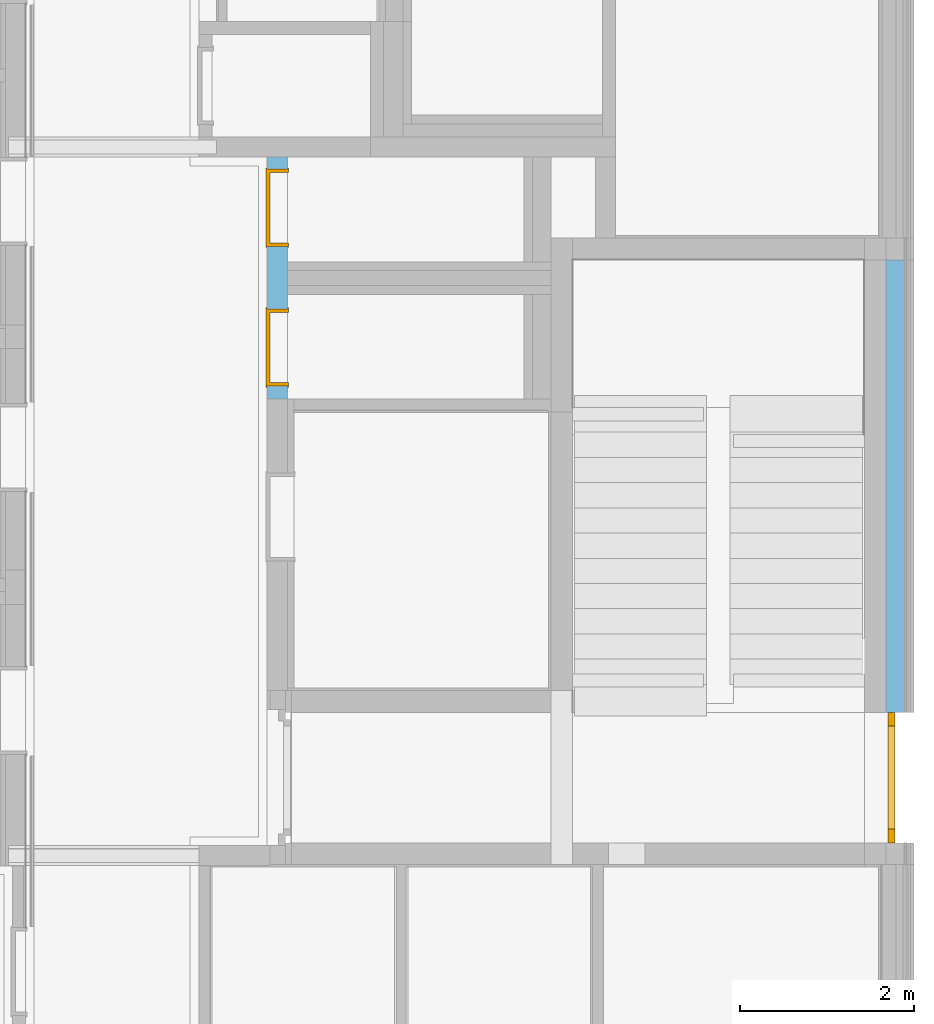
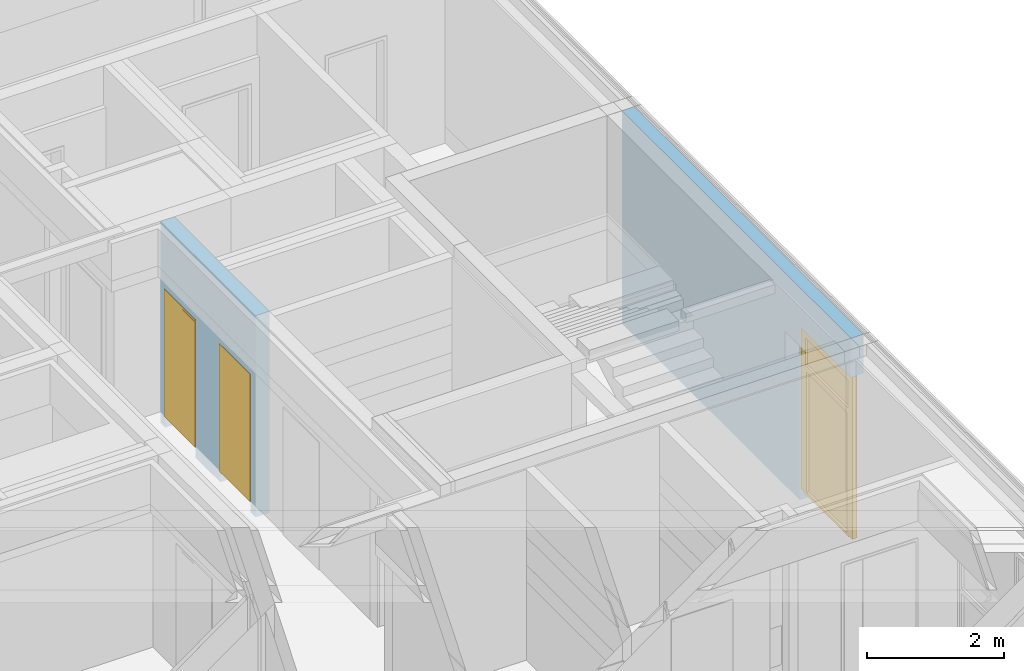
# One storey, part 142 of 207: 3 doors, 3 openings, plus 2 elements that do not belong to this part.
"""IFC4 building model written with IfcOpenShell, lengths in metres."""

import ifcopenshell
import ifcopenshell.guid

model = None  # the IFC model being written
_history = None  # IfcOwnerHistory: only IFC2X3 demands one
_inside = {}  # id of a spatial element -> (the spatial element, [elements in it])
_under = {}  # id of a project, library or spatial element -> (it, [spatial elements below it])
_declared = {}  # id of a project -> (the project, [libraries it declares])
_typed = {}  # id of a type object -> (the type object, [elements of that type])
_made_of = {}  # id of a material, layer set ... -> (it, [elements and type objects made of it])


def new_model(schema):
    """Start an empty IFC model of exactly this schema.

    Asked for "IFC4X3", IfcOpenShell would pick the latest addendum, in which some entities
    have other attributes; the version numbers below select the first issue.
    IFC2X3 requires an IfcOwnerHistory on every rooted entity: one is made here for all.
    """
    global model, _history
    if schema == "IFC4X3":
        model = ifcopenshell.file(schema_version=(4, 3, 0, 0))
    else:
        model = ifcopenshell.file(schema=schema)
    _inside.clear()
    _under.clear()
    _declared.clear()
    _typed.clear()
    _made_of.clear()
    _history = None
    if model.schema == "IFC2X3":
        org = make("IfcOrganization", Name="unknown")
        user = make(
            "IfcPersonAndOrganization",
            ThePerson=make("IfcPerson", FamilyName="unknown"),
            TheOrganization=org,
        )
        app = make(
            "IfcApplication",
            ApplicationDeveloper=org,
            Version="unknown",
            ApplicationFullName="unknown",
            ApplicationIdentifier="unknown",
        )
        _history = make(
            "IfcOwnerHistory",
            OwningUser=user,
            OwningApplication=app,
            ChangeAction="ADDED",
            CreationDate=0,
        )
    return model


def make(cls, **values):
    """One entity of the class cls with the attributes given. An attribute that is None is left unset."""
    return model.create_entity(
        cls, **{name: value for name, value in values.items() if value is not None}
    )


def entity(cls, *values):
    """Any entity or typed value of the class cls, its attributes in the order of the schema. None: left unset."""
    e = model.create_entity(cls)
    for i, value in enumerate(values):
        if value is not None:
            e[i] = value
    return e


def rooted(cls, **values):
    """An entity with a GlobalId (a new one), such as an element, a storey or a relation."""
    return make(cls, GlobalId=ifcopenshell.guid.new(), OwnerHistory=_history, **values)


def si_unit(unit_type, name, prefix=None):
    """IfcSIUnit, for example si_unit("LENGTHUNIT", "METRE", prefix="MILLI")."""
    return make("IfcSIUnit", UnitType=unit_type, Prefix=prefix, Name=name)


def converted_unit(unit_type, name, factor, base, dimensions=None, offset=None):
    """IfcConversionBasedUnit, such as the inch: factor (a typed value) times the base unit."""
    return make(
        "IfcConversionBasedUnit"
        if offset is None
        else "IfcConversionBasedUnitWithOffset",
        ConversionOffset=offset,
        Dimensions=None
        if dimensions is None
        else entity("IfcDimensionalExponents", *dimensions),
        UnitType=unit_type,
        Name=name,
        ConversionFactor=make(
            "IfcMeasureWithUnit", ValueComponent=factor, UnitComponent=base
        ),
    )


def derived_unit(unit_type, elements):
    """IfcDerivedUnit: a product of units, each with its exponent."""
    return make(
        "IfcDerivedUnit",
        Elements=[
            make("IfcDerivedUnitElement", Unit=unit, Exponent=power)
            for unit, power in elements
        ],
        UnitType=unit_type,
    )


def assignment(units):
    """IfcUnitAssignment: the units of a project."""
    return None if units is None else make("IfcUnitAssignment", Units=units)


def point(xyz):
    """IfcCartesianPoint."""
    return None if xyz is None else make("IfcCartesianPoint", Coordinates=xyz)


def direction(xyz):
    """IfcDirection."""
    return None if xyz is None else make("IfcDirection", DirectionRatios=xyz)


def frame(location, z_axis=None, x_axis=None):
    """IfcAxis2Placement3D, a coordinate frame: its origin and axes. An axis left out is left unset."""
    return make(
        "IfcAxis2Placement3D",
        Location=point(location),
        Axis=direction(z_axis),
        RefDirection=direction(x_axis),
    )


def frame_2d(location, x_axis=None):
    """IfcAxis2Placement2D, a coordinate frame in the plane: its origin and x axis."""
    return make(
        "IfcAxis2Placement2D", Location=point(location), RefDirection=direction(x_axis)
    )


def origin():
    """The frame at (0, 0, 0) with its axes left unset."""
    return frame((0.0, 0.0, 0.0))


def origin_with_axes():
    """The frame at (0, 0, 0) with the z axis (0, 0, 1) and the x axis (1, 0, 0) written out."""
    return frame((0.0, 0.0, 0.0), z_axis=(0.0, 0.0, 1.0), x_axis=(1.0, 0.0, 0.0))


def place(relative_to, where):
    """IfcLocalPlacement: puts the frame where relative to a parent placement (None: the world)."""
    return make(
        "IfcLocalPlacement", PlacementRelTo=relative_to, RelativePlacement=where
    )


def context(
    kind, dimensions, precision=None, world=None, true_north=None, identifier=None
):
    """IfcGeometricRepresentationContext, for example the 3D "Model" context."""
    return make(
        "IfcGeometricRepresentationContext",
        ContextIdentifier=identifier,
        ContextType=kind,
        CoordinateSpaceDimension=dimensions,
        Precision=precision,
        WorldCoordinateSystem=world,
        TrueNorth=true_north,
    )


def subcontext(parent, identifier, kind, view, scale=None):
    """IfcGeometricRepresentationSubContext, for example "Body" below "Model"."""
    return make(
        "IfcGeometricRepresentationSubContext",
        ContextIdentifier=identifier,
        ContextType=kind,
        ParentContext=parent,
        TargetScale=scale,
        TargetView=view,
    )


def project(units=None, contexts=None):
    """IfcProject with its units and contexts."""
    return rooted(
        "IfcProject",
        Name="project",
        RepresentationContexts=contexts,
        UnitsInContext=assignment(units),
    )


def spatial(cls, under=None, at=None, **own):
    """A site, building, storey or space (cls), placed at a placement, below another one or the project."""
    s = rooted(cls, ObjectPlacement=at, **own)
    if under is not None:
        _under.setdefault(under.id(), (under, []))[1].append(s)
    return s


def polyline(points):
    """IfcPolyline through the points."""
    return make("IfcPolyline", Points=[point(p) for p in points])


def profile(cls, at=None, kind="AREA", **sizes):
    """A parametric profile (cls). Its sizes go by their IFC names, for example OverallWidth=200.0."""
    return make(cls, ProfileType=kind, Position=at, **sizes)


def rectangle(**sizes):
    """IfcRectangleProfileDef."""
    return profile("IfcRectangleProfileDef", **sizes)


def outline(outer, holes=None, kind="AREA"):
    """IfcArbitraryClosedProfileDef: a profile drawn as a closed curve; with holes, ...WithVoids."""
    if holes is None:
        return make("IfcArbitraryClosedProfileDef", ProfileType=kind, OuterCurve=outer)
    return make(
        "IfcArbitraryProfileDefWithVoids",
        ProfileType=kind,
        OuterCurve=outer,
        InnerCurves=holes,
    )


def extrude(swept, where, along, depth):
    """IfcExtrudedAreaSolid: the profile swept, set in the frame where, extruded along a direction by depth."""
    return make(
        "IfcExtrudedAreaSolid",
        SweptArea=swept,
        Position=where,
        ExtrudedDirection=direction(along),
        Depth=depth,
    )


def faces_of(points, faces, orient=None, outer=None):
    """IfcFace entities. A face is a list of loops; a loop is a list of indices into points, from 0.

    orient and outer hold one flag for each loop. By default every Orientation is true, the
    first loop of a face is its IfcFaceOuterBound and the others are IfcFaceBound.
    """
    made = []
    for i, loops in enumerate(faces):
        bounds = []
        for j, loop in enumerate(loops):
            is_outer = j == 0 if outer is None else outer[i][j]
            bounds.append(
                make(
                    "IfcFaceOuterBound" if is_outer else "IfcFaceBound",
                    Bound=make("IfcPolyLoop", Polygon=[points[k] for k in loop]),
                    Orientation=True if orient is None else orient[i][j],
                )
            )
        made.append(make("IfcFace", Bounds=bounds))
    return made


def closed_shell(faces, orient=None, outer=None):
    """The faces of one IfcClosedShell. faceted_brep and surface_model build it on their shared points."""
    return ("IfcClosedShell", faces, orient, outer)


def open_shell(faces, orient=None, outer=None):
    """The faces of one IfcOpenShell. surface_model builds it on its shared points."""
    return ("IfcOpenShell", faces, orient, outer)


def faceted_brep(points, faces, orient=None, outer=None, voids=None):
    """IfcFacetedBrep: a solid bounded by flat faces; with voids (closed shells), ...WithVoids."""
    shared = [point(p) for p in points]
    hull = make("IfcClosedShell", CfsFaces=faces_of(shared, faces, orient, outer))
    if voids is None:
        return make("IfcFacetedBrep", Outer=hull)
    return make(
        "IfcFacetedBrepWithVoids",
        Outer=hull,
        Voids=[
            make(cls, CfsFaces=faces_of(shared, fs, o, b)) for cls, fs, o, b in voids
        ],
    )


def surface_model(cls, points, shells):
    """IfcFaceBasedSurfaceModel or IfcShellBasedSurfaceModel (cls): surfaces that need not close."""
    shared = [point(p) for p in points]
    made = [make(c, CfsFaces=faces_of(shared, fs, o, b)) for c, fs, o, b in shells]
    if cls == "IfcFaceBasedSurfaceModel":
        return make(cls, FbsmFaces=made)
    return make(cls, SbsmBoundary=made)


def shape(context_of_items, identifier, shape_type, items):
    """IfcShapeRepresentation: the items that make up one representation, for example the "Body"."""
    return make(
        "IfcShapeRepresentation",
        ContextOfItems=context_of_items,
        RepresentationIdentifier=identifier,
        RepresentationType=shape_type,
        Items=items,
    )


def source(mapping_origin, context_of_items, identifier, shape_type, items):
    """IfcRepresentationMap: a shape defined once, which mapped items show again and again."""
    return make(
        "IfcRepresentationMap",
        MappingOrigin=mapping_origin,
        MappedRepresentation=shape(context_of_items, identifier, shape_type, items),
    )


def transform(
    local_origin,
    x_axis=None,
    y_axis=None,
    z_axis=None,
    scale=None,
    scale2=None,
    scale3=None,
    uniform=True,
):
    """IfcCartesianTransformationOperator3D, or its non-uniform kind. x_axis, y_axis, z_axis: its Axis1, 2, 3."""
    if uniform:
        return make(
            "IfcCartesianTransformationOperator3D",
            Axis1=direction(x_axis),
            Axis2=direction(y_axis),
            LocalOrigin=point(local_origin),
            Scale=scale,
            Axis3=direction(z_axis),
        )
    return make(
        "IfcCartesianTransformationOperator3DnonUniform",
        Axis1=direction(x_axis),
        Axis2=direction(y_axis),
        LocalOrigin=point(local_origin),
        Scale=scale,
        Axis3=direction(z_axis),
        Scale2=scale2,
        Scale3=scale3,
    )


def mapped(mapping_source, mapping_target):
    """IfcMappedItem: shows the shape of a source again, moved by a transform."""
    return make(
        "IfcMappedItem", MappingSource=mapping_source, MappingTarget=mapping_target
    )


def material(Name=None, Category=None):
    """IfcMaterial."""
    return make("IfcMaterial", Name=Name, Category=Category)


def made_of(thing, what):
    """Note that an element or type object is made of a material, layer set ...; save() writes the relation."""
    if what is not None:
        _made_of.setdefault(what.id(), (what, []))[1].append(thing)
    return thing


def type_object(cls, material=None, **own):
    """A type object (cls), such as IfcWallType, which elements share."""
    return made_of(rooted(cls, **own), material)


def element(
    cls,
    number,
    at=None,
    inside=None,
    cuts=None,
    type_object=None,
    material=None,
    context=None,
    identifier="Body",
    shape_type=None,
    held_by="IfcProductDefinitionShape",
    body=None,
    shapes=None,
    **own,
):
    """One element of the class cls, such as IfcWall. Its Tag is "e" and its number.

    at: its placement. inside: the storey or other place that contains it. cuts: it is an
    opening in that element (IfcRelVoidsElement). A single representation is given by context,
    identifier, shape_type and body (its items); several are given by shapes. held_by: the class
    of the entity that holds the representations. save() writes the other relations.
    """
    e = rooted(cls, Tag="e%d" % number, ObjectPlacement=at, **own)
    if body is not None:
        shapes = [shape(context, identifier, shape_type, body)]
    if shapes is not None:
        e.Representation = make(held_by, Representations=shapes)
    if inside is not None:
        _inside.setdefault(inside.id(), (inside, []))[1].append(e)
    if cuts is not None:
        rooted(
            "IfcRelVoidsElement", RelatingBuildingElement=cuts, RelatedOpeningElement=e
        )
    if type_object is not None:
        _typed.setdefault(type_object.id(), (type_object, []))[1].append(e)
    return made_of(e, material)


def fill(opening, filler):
    """IfcRelFillsElement: the door or window that sits in an opening."""
    return rooted(
        "IfcRelFillsElement",
        RelatingOpeningElement=opening,
        RelatedBuildingElement=filler,
    )


def aggregate(whole, parts):
    """IfcRelAggregates: a whole, such as a stair, and the parts it consists of."""
    return rooted("IfcRelAggregates", RelatingObject=whole, RelatedObjects=parts)


def save(model, path):
    """Write the relations noted so far, then the file.

    IfcRelAggregates (storeys below a building ...), IfcRelContainedInSpatialStructure (elements
    in a storey), IfcRelDefinesByType, IfcRelAssociatesMaterial and IfcRelDeclares: one each for
    every whole, place, type object, material and project.
    """
    for whole, parts in _under.values():
        aggregate(whole, parts)
    for where, things in _inside.values():
        rooted(
            "IfcRelContainedInSpatialStructure",
            RelatedElements=things,
            RelatingStructure=where,
        )
    for kind, things in _typed.values():
        rooted("IfcRelDefinesByType", RelatedObjects=things, RelatingType=kind)
    for what, things in _made_of.values():
        rooted("IfcRelAssociatesMaterial", RelatedObjects=things, RelatingMaterial=what)
    for by, libraries in _declared.values():
        rooted("IfcRelDeclares", RelatingContext=by, RelatedDefinitions=libraries)
    model.write(path)


model = new_model("IFC4")

# Units and contexts
model_context = context("Model", 3, precision=1e-05, world=origin())
body_context = subcontext(model_context, "Body", "Model", "MODEL_VIEW")
ifc_project = project(units=[si_unit("LENGTHUNIT", "METRE"), si_unit("AREAUNIT", "SQUARE_METRE"), si_unit("VOLUMEUNIT", "CUBIC_METRE"), si_unit("MASSUNIT", "GRAM", prefix="KILO"), converted_unit("PLANEANGLEUNIT", "DEGREE", entity("IfcPlaneAngleMeasure", 0.0174532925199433), si_unit("PLANEANGLEUNIT", "RADIAN"), dimensions=[0, 0, 0, 0, 0, 0, 0]), derived_unit("THERMALTRANSMITTANCEUNIT", [(si_unit("POWERUNIT", "WATT"), 1), (si_unit("THERMODYNAMICTEMPERATUREUNIT", "KELVIN"), -1), (si_unit("LENGTHUNIT", "METRE"), -2)]), derived_unit("VOLUMETRICFLOWRATEUNIT", [(si_unit("LENGTHUNIT", "METRE"), 3), (converted_unit("TIMEUNIT", "hour", entity("IfcTimeMeasure", 3600.0), si_unit("TIMEUNIT", "SECOND"), dimensions=[0, 0, 1, 0, 0, 0, 0]), -1), (si_unit("LENGTHUNIT", "METRE"), -1)])], contexts=[model_context])

# Site, building, storey
site_placement = place(None, origin())
site = spatial("IfcSite", under=ifc_project, at=site_placement, Name="Psychiatrie Neubau Wunstorf", CompositionType="ELEMENT")
building_placement = place(site_placement, origin())
building = spatial("IfcBuilding", under=site, at=building_placement, Name="Neubau H2 Stationsgebäude", CompositionType="ELEMENT")
storey_placement = place(building_placement, frame((0.0, 0.0, -0.2)))
storey = spatial("IfcBuildingStorey", under=building, at=storey_placement, Name="H2 Ebene 0", CompositionType="ELEMENT", Elevation=-0.2)

# Wall, opening, door
ifc_material_1 = material(Name="WA-DL")
wall_1_placement = place(storey_placement, frame((105.97, 17.575, 0.0), z_axis=(0.0, 0.0, 1.0), x_axis=(0.0, -1.0, 0.0)))
wall_1 = element("IfcWall", 1, at=wall_1_placement, inside=storey, material=ifc_material_1, context=body_context, shape_type="SweptSolid", body=[
    extrude(rectangle(XDim=6.70000010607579, YDim=0.21, at=frame_2d((3.3500000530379, 0.105), x_axis=(1.0, 0.0))), origin_with_axes(), (0.0, 0.0, 1.0), 3.8),
])
opening_1_placement = place(wall_1_placement, frame((6.70000010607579, 0.21, 0.0), z_axis=(0.0, -1.0, 0.0), x_axis=(0.0, 0.0, 1.0)))
opening_1 = element("IfcOpeningElement", 2, at=opening_1_placement, cuts=wall_1, Name="Türöffnung", ObjectType="Opening", context=body_context, shape_type="SweptSolid", body=[
    extrude(outline(polyline([(3.1, 1.5000257), (3.1, 0.0), (0.0, 0.0), (0.0, 1.5000257), (3.1, 1.5000257)])), origin_with_axes(), (0.0, 0.0, 1.0), 0.21),
])
ifc_material_2 = material(Name="TA-1F-AG-D-O")
door_type_1 = type_object("IfcDoorType", Name="SMT", OperationType="SINGLE_SWING_RIGHT", ParameterTakesPrecedence=False, PredefinedType="DOOR")
shared_shape_1 = source(origin_with_axes(), body_context, "Body", "SurfaceModel", [
    surface_model("IfcShellBasedSurfaceModel", [(0.0, 0.0794999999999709, 3.1), (0.0, 0.0794999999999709, 0.2), (0.0499999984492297, 0.0794999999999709, 0.2), (0.0499999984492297, 0.0794999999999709, 3.1), (0.0, 0.000499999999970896, 0.2), (0.0, 0.000499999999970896, 3.1), (0.0499999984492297, 0.000499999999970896, 3.1), (0.0499999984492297, 0.000499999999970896, 0.2)], [closed_shell([[[0, 1, 2, 3]], [[4, 5, 6, 7]], [[1, 0, 5, 4]], [[2, 1, 4, 7]], [[3, 2, 7, 6]], [[0, 3, 6, 5]]], orient=[[False], [False], [False], [False], [False], [False]])]),
    surface_model("IfcShellBasedSurfaceModel", [(1.45002570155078, 0.0794999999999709, 3.1), (1.45002570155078, 0.0794999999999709, 0.2), (1.5000257, 0.0794999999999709, 0.2), (1.5000257, 0.0794999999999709, 3.1), (1.45002570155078, 0.000499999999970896, 0.2), (1.45002570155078, 0.000499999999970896, 3.1), (1.5000257, 0.000499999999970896, 3.1), (1.5000257, 0.000499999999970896, 0.2)], [closed_shell([[[0, 1, 2, 3]], [[4, 5, 6, 7]], [[1, 0, 5, 4]], [[2, 1, 4, 7]], [[3, 2, 7, 6]], [[0, 3, 6, 5]]], orient=[[False], [False], [False], [False], [False], [False]])]),
    surface_model("IfcShellBasedSurfaceModel", [(0.0499999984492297, 0.0794999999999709, 3.1), (0.0499999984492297, 0.0794999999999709, 3.05), (1.45002570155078, 0.0794999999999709, 3.05), (1.45002570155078, 0.0794999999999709, 3.1), (0.0499999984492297, 0.000499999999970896, 3.05), (0.0499999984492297, 0.000499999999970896, 3.1), (1.45002570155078, 0.000499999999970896, 3.1), (1.45002570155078, 0.000499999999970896, 3.05)], [closed_shell([[[0, 1, 2, 3]], [[4, 5, 6, 7]], [[1, 0, 5, 4]], [[2, 1, 4, 7]], [[3, 2, 7, 6]], [[0, 3, 6, 5]]], orient=[[False], [False], [False], [False], [False], [False]])]),
    surface_model("IfcShellBasedSurfaceModel", [(0.0499999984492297, 0.0799999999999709, 3.05), (0.0499999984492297, 0.0799999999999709, 0.2), (0.129999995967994, 0.0799999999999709, 0.2), (0.129999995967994, 0.0799999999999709, 3.05), (0.0499999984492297, 0.0, 0.2), (0.0499999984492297, 0.0, 3.05), (0.129999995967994, 0.0, 3.05), (0.129999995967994, 0.0, 0.2)], [closed_shell([[[0, 1, 2, 3]], [[4, 5, 6, 7]], [[1, 0, 5, 4]], [[2, 1, 4, 7]], [[3, 2, 7, 6]], [[0, 3, 6, 5]]], orient=[[False], [False], [False], [False], [False], [False]])]),
    surface_model("IfcShellBasedSurfaceModel", [(1.37002570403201, 0.0799999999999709, 3.05), (1.37002570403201, 0.0799999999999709, 0.2), (1.45002570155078, 0.0799999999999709, 0.2), (1.45002570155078, 0.0799999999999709, 3.05), (1.37002570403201, 0.0, 0.2), (1.37002570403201, 0.0, 3.05), (1.45002570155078, 0.0, 3.05), (1.45002570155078, 0.0, 0.2)], [closed_shell([[[0, 1, 2, 3]], [[4, 5, 6, 7]], [[1, 0, 5, 4]], [[2, 1, 4, 7]], [[3, 2, 7, 6]], [[0, 3, 6, 5]]], orient=[[False], [False], [False], [False], [False], [False]])]),
    surface_model("IfcShellBasedSurfaceModel", [(0.129999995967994, 0.0799999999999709, 3.05), (0.129999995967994, 0.0799999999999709, 2.97), (1.37002570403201, 0.0799999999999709, 2.97), (1.37002570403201, 0.0799999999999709, 3.05), (0.129999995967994, 0.0, 2.97), (0.129999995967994, 0.0, 3.05), (1.37002570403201, 0.0, 3.05), (1.37002570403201, 0.0, 2.97)], [closed_shell([[[0, 1, 2, 3]], [[4, 5, 6, 7]], [[1, 0, 5, 4]], [[2, 1, 4, 7]], [[3, 2, 7, 6]], [[0, 3, 6, 5]]], orient=[[False], [False], [False], [False], [False], [False]])]),
    surface_model("IfcShellBasedSurfaceModel", [(0.109999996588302, 0.0799999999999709, 2.42), (0.109999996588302, 0.0799999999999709, 0.18), (0.15999999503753, 0.0799999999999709, 0.18), (0.15999999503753, 0.0799999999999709, 2.42), (0.109999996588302, 0.0, 0.18), (0.109999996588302, 0.0, 2.42), (0.15999999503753, 0.0, 2.42), (0.15999999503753, 0.0, 0.18)], [closed_shell([[[0, 1, 2, 3]], [[4, 5, 6, 7]], [[1, 0, 5, 4]], [[2, 1, 4, 7]], [[3, 2, 7, 6]], [[0, 3, 6, 5]]], orient=[[False], [False], [False], [False], [False], [False]])]),
    surface_model("IfcShellBasedSurfaceModel", [(1.34002570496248, 0.0799999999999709, 2.42), (1.34002570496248, 0.0799999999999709, 0.18), (1.3900257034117, 0.0799999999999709, 0.18), (1.3900257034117, 0.0799999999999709, 2.42), (1.34002570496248, 0.0, 0.18), (1.34002570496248, 0.0, 2.42), (1.3900257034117, 0.0, 2.42), (1.3900257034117, 0.0, 0.18)], [closed_shell([[[0, 1, 2, 3]], [[4, 5, 6, 7]], [[1, 0, 5, 4]], [[2, 1, 4, 7]], [[3, 2, 7, 6]], [[0, 3, 6, 5]]], orient=[[False], [False], [False], [False], [False], [False]])]),
    surface_model("IfcShellBasedSurfaceModel", [(0.15999999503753, 0.0799999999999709, 0.23), (0.15999999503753, 0.0799999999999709, 0.18), (1.34002570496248, 0.0799999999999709, 0.18), (1.34002570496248, 0.0799999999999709, 0.23), (0.15999999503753, 0.0, 0.18), (0.15999999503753, 0.0, 0.23), (1.34002570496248, 0.0, 0.23), (1.34002570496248, 0.0, 0.18)], [closed_shell([[[0, 1, 2, 3]], [[4, 5, 6, 7]], [[1, 0, 5, 4]], [[2, 1, 4, 7]], [[3, 2, 7, 6]], [[0, 3, 6, 5]]], orient=[[False], [False], [False], [False], [False], [False]])]),
    surface_model("IfcShellBasedSurfaceModel", [(0.15999999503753, 0.0799999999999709, 2.42), (0.15999999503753, 0.0799999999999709, 2.37), (1.34002570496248, 0.0799999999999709, 2.37), (1.34002570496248, 0.0799999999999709, 2.42), (0.15999999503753, 0.0, 2.37), (0.15999999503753, 0.0, 2.42), (1.34002570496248, 0.0, 2.42), (1.34002570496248, 0.0, 2.37)], [closed_shell([[[0, 1, 2, 3]], [[4, 5, 6, 7]], [[1, 0, 5, 4]], [[2, 1, 4, 7]], [[3, 2, 7, 6]], [[0, 3, 6, 5]]], orient=[[False], [False], [False], [False], [False], [False]])]),
    surface_model("IfcShellBasedSurfaceModel", [(0.129999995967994, 0.0699999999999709, 2.481), (0.129999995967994, 0.0699999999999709, 2.401), (1.37002570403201, 0.0699999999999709, 2.401), (1.37002570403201, 0.0699999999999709, 2.481), (0.129999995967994, 0.0, 2.401), (0.129999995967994, 0.0, 2.481), (1.37002570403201, 0.0, 2.481), (1.37002570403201, 0.0, 2.401)], [closed_shell([[[0, 1, 2, 3]], [[4, 5, 6, 7]], [[1, 0, 5, 4]], [[2, 1, 4, 7]], [[3, 2, 7, 6]], [[0, 3, 6, 5]]], orient=[[False], [False], [False], [False], [False], [False]])]),
    surface_model("IfcShellBasedSurfaceModel", [(0.129999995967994, 0.0349999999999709, 2.481), (1.37002570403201, 0.0349999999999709, 2.481), (1.37002570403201, 0.0349999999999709, 2.97), (0.129999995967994, 0.0349999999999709, 2.97)], [open_shell([[[0, 1, 2, 3]]], orient=[[False]])]),
    surface_model("IfcShellBasedSurfaceModel", [(0.15999999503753, 0.0399999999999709, 0.23), (1.34002570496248, 0.0399999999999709, 0.23), (1.34002570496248, 0.0399999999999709, 2.37), (0.15999999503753, 0.0399999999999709, 2.37)], [open_shell([[[0, 1, 2, 3]]], orient=[[False]])]),
])
door_1_placement = place(opening_1_placement, frame((0.0, 1.5000257, 0.189), z_axis=(1.0, 0.0, 0.0), x_axis=(0.0, -1.0, 0.0)))
door_1 = element("IfcDoor", 3, at=door_1_placement, inside=storey, type_object=door_type_1, material=ifc_material_2, Name="SMT", OverallHeight=3.1, OverallWidth=1.50003, context=body_context, shape_type="MappedRepresentation", body=[
    mapped(shared_shape_1, transform((0.0, 0.0, 0.0), x_axis=(1.0, 0.0, 0.0), y_axis=(0.0, 1.0, 0.0), z_axis=(0.0, 0.0, 1.0), scale=1.0)),
])
fill(opening_1, door_1)

# Wall, openings, doors
ifc_material_3 = material(Name="WI-HW 60")
wall_2_placement = place(storey_placement, frame((98.859, 18.7540040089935, 0.0), z_axis=(0.0, 0.0, 1.0), x_axis=(0.0, -1.0, 0.0)))
wall_2 = element("IfcWall", 4, at=wall_2_placement, inside=storey, material=ifc_material_3, context=body_context, shape_type="SweptSolid", body=[
    extrude(rectangle(XDim=2.77900268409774, YDim=0.232, at=frame_2d((1.38950134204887, 0.116), x_axis=(1.0, 0.0))), origin_with_axes(), (0.0, 0.0, 1.0), 3.6),
])
opening_2_placement = place(wall_2_placement, frame((0.139001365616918, 0.0, 0.0), z_axis=(0.0, 1.0, 0.0), x_axis=(0.0, 0.0, 1.0)))
opening_2 = element("IfcOpeningElement", 5, at=opening_2_placement, cuts=wall_2, Name="Türöffnung", ObjectType="Opening", context=body_context, shape_type="SweptSolid", body=[
    extrude(outline(polyline([(2.46, 0.885), (2.46, 0.0), (0.0, 0.0), (0.0, 0.885), (2.46, 0.885)])), origin_with_axes(), (0.0, 0.0, 1.0), 0.232),
])
opening_3_placement = place(wall_2_placement, frame((1.74400268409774, 0.0, 0.0), z_axis=(0.0, 1.0, 0.0), x_axis=(0.0, 0.0, 1.0)))
opening_3 = element("IfcOpeningElement", 6, at=opening_3_placement, cuts=wall_2, Name="Türöffnung", ObjectType="Opening", context=body_context, shape_type="SweptSolid", body=[
    extrude(outline(polyline([(2.46, 0.885), (2.46, 0.0), (0.0, 0.0), (0.0, 0.885), (2.46, 0.885)])), origin_with_axes(), (0.0, 0.0, 1.0), 0.232),
])
ifc_material_4 = material(Name="TI-1F-UZ-D-N")
door_type_2 = type_object("IfcDoorType", Name="SMT", OperationType="SINGLE_SWING_RIGHT", ParameterTakesPrecedence=False, PredefinedType="DOOR")
shared_shape_2 = source(origin_with_axes(), body_context, "Body", "Brep", [
    faceted_brep([(0.884999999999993, -0.0149999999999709, 2.46), (0.884999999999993, -0.0149999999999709, 0.2), (0.844999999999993, -0.0149999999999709, 0.2), (0.844999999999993, -0.0149999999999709, 2.46), (0.884999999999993, 0.247000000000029, 0.2), (0.884999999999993, 0.247000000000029, 2.46), (0.844999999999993, 0.247000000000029, 2.46), (0.844999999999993, 0.247000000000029, 0.2)], [[[0, 1, 2, 3]], [[4, 5, 6, 7]], [[1, 0, 5, 4]], [[2, 1, 4, 7]], [[3, 2, 7, 6]], [[0, 3, 6, 5]]], orient=[[False], [False], [False], [False], [False], [False]]),
    faceted_brep([(0.884999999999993, -0.0149999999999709, 2.475), (0.899999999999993, -0.0149999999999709, 2.475), (0.899999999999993, -0.0149999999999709, 0.2), (0.884999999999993, -0.0149999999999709, 0.2), (0.884999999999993, 0.0, 0.2), (0.899999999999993, 0.0, 0.2), (0.899999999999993, 0.0, 2.475), (0.884999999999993, 0.0, 2.475)], [[[0, 1, 2, 3]], [[4, 5, 6, 7]], [[3, 4, 7, 0]], [[2, 5, 4, 3]], [[1, 6, 5, 2]], [[0, 7, 6, 1]]], orient=[[False], [False], [False], [False], [False], [False]]),
    faceted_brep([(0.884999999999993, 0.232000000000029, 2.475), (0.899999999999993, 0.232000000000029, 2.475), (0.899999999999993, 0.232000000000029, 0.2), (0.884999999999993, 0.232000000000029, 0.2), (0.884999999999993, 0.247000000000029, 0.2), (0.899999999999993, 0.247000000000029, 0.2), (0.899999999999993, 0.247000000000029, 2.475), (0.884999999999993, 0.247000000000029, 2.475)], [[[0, 1, 2, 3]], [[4, 5, 6, 7]], [[3, 4, 7, 0]], [[2, 5, 4, 3]], [[1, 6, 5, 2]], [[0, 7, 6, 1]]], orient=[[False], [False], [False], [False], [False], [False]]),
    faceted_brep([(0.0399999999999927, -0.0149999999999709, 2.46), (0.0399999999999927, -0.0149999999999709, 0.2), (0.0, -0.0149999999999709, 0.2), (0.0, -0.0149999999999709, 2.46), (0.0399999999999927, 0.247000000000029, 0.2), (0.0399999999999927, 0.247000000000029, 2.46), (0.0, 0.247000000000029, 2.46), (0.0, 0.247000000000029, 0.2)], [[[0, 1, 2, 3]], [[4, 5, 6, 7]], [[1, 0, 5, 4]], [[2, 1, 4, 7]], [[3, 2, 7, 6]], [[0, 3, 6, 5]]], orient=[[False], [False], [False], [False], [False], [False]]),
    faceted_brep([(0.0, -0.0149999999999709, 2.475), (0.0, -0.0149999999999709, 0.2), (-0.0150000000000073, -0.0149999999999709, 0.2), (-0.0150000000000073, -0.0149999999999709, 2.475), (0.0, 0.0, 0.2), (0.0, 0.0, 2.475), (-0.0150000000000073, 0.0, 2.475), (-0.0150000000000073, 0.0, 0.2)], [[[0, 1, 2, 3]], [[4, 5, 6, 7]], [[1, 0, 5, 4]], [[2, 1, 4, 7]], [[3, 2, 7, 6]], [[0, 3, 6, 5]]], orient=[[False], [False], [False], [False], [False], [False]]),
    faceted_brep([(0.0, 0.232000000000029, 2.475), (0.0, 0.232000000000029, 0.2), (-0.0150000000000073, 0.232000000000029, 0.2), (-0.0150000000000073, 0.232000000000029, 2.475), (0.0, 0.247000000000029, 0.2), (0.0, 0.247000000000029, 2.475), (-0.0150000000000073, 0.247000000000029, 2.475), (-0.0150000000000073, 0.247000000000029, 0.2)], [[[0, 1, 2, 3]], [[4, 5, 6, 7]], [[1, 0, 5, 4]], [[2, 1, 4, 7]], [[3, 2, 7, 6]], [[0, 3, 6, 5]]], orient=[[False], [False], [False], [False], [False], [False]]),
    faceted_brep([(0.844999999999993, -0.0149999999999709, 2.46), (0.844999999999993, -0.0149999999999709, 2.42), (0.0399999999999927, -0.0149999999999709, 2.42), (0.0399999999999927, -0.0149999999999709, 2.46), (0.844999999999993, 0.247000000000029, 2.42), (0.844999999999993, 0.247000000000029, 2.46), (0.0399999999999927, 0.247000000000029, 2.46), (0.0399999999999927, 0.247000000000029, 2.42)], [[[0, 1, 2, 3]], [[4, 5, 6, 7]], [[1, 0, 5, 4]], [[2, 1, 4, 7]], [[3, 2, 7, 6]], [[0, 3, 6, 5]]], orient=[[False], [False], [False], [False], [False], [False]]),
    faceted_brep([(0.884999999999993, -0.0149999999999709, 2.475), (0.884999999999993, -0.0149999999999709, 2.46), (0.0, -0.0149999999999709, 2.46), (0.0, -0.0149999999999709, 2.475), (0.884999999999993, 0.0, 2.46), (0.884999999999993, 0.0, 2.475), (0.0, 0.0, 2.475), (0.0, 0.0, 2.46)], [[[0, 1, 2, 3]], [[4, 5, 6, 7]], [[1, 0, 5, 4]], [[2, 1, 4, 7]], [[3, 2, 7, 6]], [[0, 3, 6, 5]]], orient=[[False], [False], [False], [False], [False], [False]]),
    faceted_brep([(0.884999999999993, 0.232000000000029, 2.475), (0.884999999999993, 0.232000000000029, 2.46), (0.0, 0.232000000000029, 2.46), (0.0, 0.232000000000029, 2.475), (0.884999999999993, 0.247000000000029, 2.46), (0.884999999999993, 0.247000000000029, 2.475), (0.0, 0.247000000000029, 2.475), (0.0, 0.247000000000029, 2.46)], [[[0, 1, 2, 3]], [[4, 5, 6, 7]], [[1, 0, 5, 4]], [[2, 1, 4, 7]], [[3, 2, 7, 6]], [[0, 3, 6, 5]]], orient=[[False], [False], [False], [False], [False], [False]]),
    faceted_brep([(0.859999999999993, 0.198000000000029, 2.435), (0.859999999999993, 0.198000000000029, 0.2), (0.0249999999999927, 0.198000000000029, 0.2), (0.0249999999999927, 0.198000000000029, 2.435), (0.859999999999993, 0.248000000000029, 0.2), (0.859999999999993, 0.248000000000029, 2.435), (0.0249999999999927, 0.248000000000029, 2.435), (0.0249999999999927, 0.248000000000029, 0.2)], [[[0, 1, 2, 3]], [[4, 5, 6, 7]], [[1, 0, 5, 4]], [[2, 1, 4, 7]], [[3, 2, 7, 6]], [[0, 3, 6, 5]]], orient=[[False], [False], [False], [False], [False], [False]]),
])
door_2_placement = place(opening_2_placement, frame((0.0, 0.885, 0.232), z_axis=(1.0, 0.0, 0.0), x_axis=(0.0, -1.0, 0.0)))
door_2 = element("IfcDoor", 7, at=door_2_placement, inside=storey, type_object=door_type_2, material=ifc_material_4, Name="SMT", OverallHeight=2.46, OverallWidth=0.885, context=body_context, shape_type="MappedRepresentation", body=[
    mapped(shared_shape_2, transform((0.0, 0.0, 0.0), x_axis=(1.0, 0.0, 0.0), y_axis=(0.0, 1.0, 0.0), z_axis=(0.0, 0.0, 1.0), scale=1.0)),
])
fill(opening_2, door_2)
ifc_material_5 = material(Name="TI-1F-UZ-D-N")
door_type_3 = type_object("IfcDoorType", Name="SMT", OperationType="SINGLE_SWING_RIGHT", ParameterTakesPrecedence=False, PredefinedType="DOOR")
shared_shape_3 = source(origin_with_axes(), body_context, "Body", "Brep", [
    faceted_brep([(0.0, -0.0149999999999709, 2.46), (0.0399999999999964, -0.0149999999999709, 2.46), (0.0399999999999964, -0.0149999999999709, 0.2), (0.0, -0.0149999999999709, 0.2), (0.0, 0.247000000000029, 0.2), (0.0399999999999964, 0.247000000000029, 0.2), (0.0399999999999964, 0.247000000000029, 2.46), (0.0, 0.247000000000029, 2.46)], [[[0, 1, 2, 3]], [[4, 5, 6, 7]], [[3, 4, 7, 0]], [[2, 5, 4, 3]], [[1, 6, 5, 2]], [[0, 7, 6, 1]]], orient=[[False], [False], [False], [False], [False], [False]]),
    faceted_brep([(0.0, -0.0149999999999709, 2.475), (0.0, -0.0149999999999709, 0.2), (-0.0150000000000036, -0.0149999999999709, 0.2), (-0.0150000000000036, -0.0149999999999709, 2.475), (0.0, 0.0, 0.2), (0.0, 0.0, 2.475), (-0.0150000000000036, 0.0, 2.475), (-0.0150000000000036, 0.0, 0.2)], [[[0, 1, 2, 3]], [[4, 5, 6, 7]], [[1, 0, 5, 4]], [[2, 1, 4, 7]], [[3, 2, 7, 6]], [[0, 3, 6, 5]]], orient=[[False], [False], [False], [False], [False], [False]]),
    faceted_brep([(0.0, 0.232000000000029, 2.475), (0.0, 0.232000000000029, 0.2), (-0.0150000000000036, 0.232000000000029, 0.2), (-0.0150000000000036, 0.232000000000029, 2.475), (0.0, 0.247000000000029, 0.2), (0.0, 0.247000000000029, 2.475), (-0.0150000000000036, 0.247000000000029, 2.475), (-0.0150000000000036, 0.247000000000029, 0.2)], [[[0, 1, 2, 3]], [[4, 5, 6, 7]], [[1, 0, 5, 4]], [[2, 1, 4, 7]], [[3, 2, 7, 6]], [[0, 3, 6, 5]]], orient=[[False], [False], [False], [False], [False], [False]]),
    faceted_brep([(0.844999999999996, -0.0149999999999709, 2.46), (0.884999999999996, -0.0149999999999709, 2.46), (0.884999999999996, -0.0149999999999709, 0.2), (0.844999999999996, -0.0149999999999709, 0.2), (0.844999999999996, 0.247000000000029, 0.2), (0.884999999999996, 0.247000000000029, 0.2), (0.884999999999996, 0.247000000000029, 2.46), (0.844999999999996, 0.247000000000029, 2.46)], [[[0, 1, 2, 3]], [[4, 5, 6, 7]], [[3, 4, 7, 0]], [[2, 5, 4, 3]], [[1, 6, 5, 2]], [[0, 7, 6, 1]]], orient=[[False], [False], [False], [False], [False], [False]]),
    faceted_brep([(0.884999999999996, -0.0149999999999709, 2.475), (0.899999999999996, -0.0149999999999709, 2.475), (0.899999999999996, -0.0149999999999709, 0.2), (0.884999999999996, -0.0149999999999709, 0.2), (0.884999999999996, 0.0, 0.2), (0.899999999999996, 0.0, 0.2), (0.899999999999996, 0.0, 2.475), (0.884999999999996, 0.0, 2.475)], [[[0, 1, 2, 3]], [[4, 5, 6, 7]], [[3, 4, 7, 0]], [[2, 5, 4, 3]], [[1, 6, 5, 2]], [[0, 7, 6, 1]]], orient=[[False], [False], [False], [False], [False], [False]]),
    faceted_brep([(0.884999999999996, 0.232000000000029, 2.475), (0.899999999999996, 0.232000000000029, 2.475), (0.899999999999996, 0.232000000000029, 0.2), (0.884999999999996, 0.232000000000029, 0.2), (0.884999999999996, 0.247000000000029, 0.2), (0.899999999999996, 0.247000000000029, 0.2), (0.899999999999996, 0.247000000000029, 2.475), (0.884999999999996, 0.247000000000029, 2.475)], [[[0, 1, 2, 3]], [[4, 5, 6, 7]], [[3, 4, 7, 0]], [[2, 5, 4, 3]], [[1, 6, 5, 2]], [[0, 7, 6, 1]]], orient=[[False], [False], [False], [False], [False], [False]]),
    faceted_brep([(0.0399999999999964, -0.0149999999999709, 2.46), (0.844999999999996, -0.0149999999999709, 2.46), (0.844999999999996, -0.0149999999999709, 2.42), (0.0399999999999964, -0.0149999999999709, 2.42), (0.0399999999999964, 0.247000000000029, 2.42), (0.844999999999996, 0.247000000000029, 2.42), (0.844999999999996, 0.247000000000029, 2.46), (0.0399999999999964, 0.247000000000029, 2.46)], [[[0, 1, 2, 3]], [[4, 5, 6, 7]], [[3, 4, 7, 0]], [[2, 5, 4, 3]], [[1, 6, 5, 2]], [[0, 7, 6, 1]]], orient=[[False], [False], [False], [False], [False], [False]]),
    faceted_brep([(0.0, -0.0149999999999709, 2.475), (0.884999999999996, -0.0149999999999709, 2.475), (0.884999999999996, -0.0149999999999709, 2.46), (0.0, -0.0149999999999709, 2.46), (0.0, 0.0, 2.46), (0.884999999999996, 0.0, 2.46), (0.884999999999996, 0.0, 2.475), (0.0, 0.0, 2.475)], [[[0, 1, 2, 3]], [[4, 5, 6, 7]], [[3, 4, 7, 0]], [[2, 5, 4, 3]], [[1, 6, 5, 2]], [[0, 7, 6, 1]]], orient=[[False], [False], [False], [False], [False], [False]]),
    faceted_brep([(0.0, 0.232000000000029, 2.475), (0.884999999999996, 0.232000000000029, 2.475), (0.884999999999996, 0.232000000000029, 2.46), (0.0, 0.232000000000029, 2.46), (0.0, 0.247000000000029, 2.46), (0.884999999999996, 0.247000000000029, 2.46), (0.884999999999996, 0.247000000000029, 2.475), (0.0, 0.247000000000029, 2.475)], [[[0, 1, 2, 3]], [[4, 5, 6, 7]], [[3, 4, 7, 0]], [[2, 5, 4, 3]], [[1, 6, 5, 2]], [[0, 7, 6, 1]]], orient=[[False], [False], [False], [False], [False], [False]]),
    faceted_brep([(0.0249999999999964, 0.198000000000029, 2.435), (0.859999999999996, 0.198000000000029, 2.435), (0.859999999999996, 0.198000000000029, 0.2), (0.0249999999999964, 0.198000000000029, 0.2), (0.0249999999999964, 0.248000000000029, 0.2), (0.859999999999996, 0.248000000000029, 0.2), (0.859999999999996, 0.248000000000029, 2.435), (0.0249999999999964, 0.248000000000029, 2.435)], [[[0, 1, 2, 3]], [[4, 5, 6, 7]], [[3, 4, 7, 0]], [[2, 5, 4, 3]], [[1, 6, 5, 2]], [[0, 7, 6, 1]]], orient=[[False], [False], [False], [False], [False], [False]]),
])
door_3_placement = place(opening_3_placement, frame((0.0, 0.885, 0.232), z_axis=(1.0, 0.0, 0.0), x_axis=(0.0, -1.0, 0.0)))
door_3 = element("IfcDoor", 8, at=door_3_placement, inside=storey, type_object=door_type_3, material=ifc_material_5, Name="SMT", OverallHeight=2.46, OverallWidth=0.885, context=body_context, shape_type="MappedRepresentation", body=[
    mapped(shared_shape_3, transform((0.0, 0.0, 0.0), x_axis=(1.0, 0.0, 0.0), y_axis=(0.0, 1.0, 0.0), z_axis=(0.0, 0.0, 1.0), scale=1.0)),
])
fill(opening_3, door_3)

save(model, "model.ifc")
